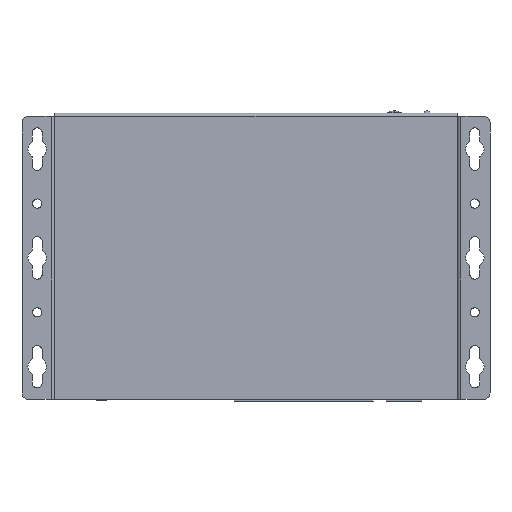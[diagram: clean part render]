
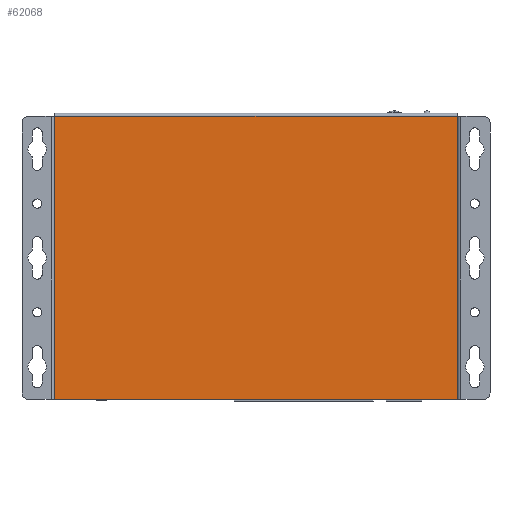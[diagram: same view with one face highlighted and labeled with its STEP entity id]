
A CAD part, front view. The second image highlights one B-rep face of the part: STEP entity #62068.
In plain terms, the highlighted planar face has unit normal (0, -1, 0).
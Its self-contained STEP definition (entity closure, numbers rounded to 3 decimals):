
#5977 = VERTEX_POINT ( 'NONE', #21545 ) ;
#7667 = VECTOR ( 'NONE', #46728, 1000. ) ;
#7840 = VERTEX_POINT ( 'NONE', #49422 ) ;
#8138 = CARTESIAN_POINT ( 'NONE',  ( 92.5, 0., 64.35 ) ) ;
#10630 = FACE_OUTER_BOUND ( 'NONE', #75617, .T. ) ;
#11002 = LINE ( 'NONE', #78434, #91529 ) ;
#11547 = VERTEX_POINT ( 'NONE', #8138 ) ;
#11793 = LINE ( 'NONE', #77289, #90226 ) ;
#12471 = LINE ( 'NONE', #75330, #63806 ) ;
#12542 = DIRECTION ( 'NONE',  ( 0., 1., 0. ) ) ;
#15716 = CARTESIAN_POINT ( 'NONE',  ( -92.5, 0., -65.75 ) ) ;
#17426 = PLANE ( 'NONE',  #34583 ) ;
#18304 = DIRECTION ( 'NONE',  ( 0., 0., -1. ) ) ;
#20302 = CARTESIAN_POINT ( 'NONE',  ( 0., 0., 0. ) ) ;
#21545 = CARTESIAN_POINT ( 'NONE',  ( -92.5, 0., 64.35 ) ) ;
#25630 = VERTEX_POINT ( 'NONE', #15716 ) ;
#29213 = EDGE_CURVE ( 'NONE', #7840, #25630, #11793, .T. ) ;
#29289 = ORIENTED_EDGE ( 'NONE', *, *, #76193, .F. ) ;
#29869 = EDGE_CURVE ( 'NONE', #25630, #5977, #90733, .T. ) ;
#30775 = DIRECTION ( 'NONE',  ( -1., 0., 0. ) ) ;
#32038 = CARTESIAN_POINT ( 'NONE',  ( -92.5, 0., -65.75 ) ) ;
#33735 = DIRECTION ( 'NONE',  ( -1., 0., 0. ) ) ;
#34583 = AXIS2_PLACEMENT_3D ( 'NONE', #20302, #12542, #63872 ) ;
#46728 = DIRECTION ( 'NONE',  ( 0., 0., 1. ) ) ;
#49422 = CARTESIAN_POINT ( 'NONE',  ( 92.5, 0., -65.75 ) ) ;
#62068 = ADVANCED_FACE ( 'NONE', ( #10630 ), #17426, .F. ) ;
#63806 = VECTOR ( 'NONE', #30775, 1000. ) ;
#63872 = DIRECTION ( 'NONE',  ( 0., 0., 1. ) ) ;
#69006 = ORIENTED_EDGE ( 'NONE', *, *, #29213, .F. ) ;
#75330 = CARTESIAN_POINT ( 'NONE',  ( 0., 0., 64.35 ) ) ;
#75617 = EDGE_LOOP ( 'NONE', ( #29289, #94817, #87016, #69006 ) ) ;
#76193 = EDGE_CURVE ( 'NONE', #11547, #7840, #11002, .T. ) ;
#77289 = CARTESIAN_POINT ( 'NONE',  ( -92.5, 0., -65.75 ) ) ;
#78434 = CARTESIAN_POINT ( 'NONE',  ( 92.5, 0., -65.75 ) ) ;
#87016 = ORIENTED_EDGE ( 'NONE', *, *, #29869, .F. ) ;
#90226 = VECTOR ( 'NONE', #33735, 1000. ) ;
#90733 = LINE ( 'NONE', #32038, #7667 ) ;
#91529 = VECTOR ( 'NONE', #18304, 1000. ) ;
#94817 = ORIENTED_EDGE ( 'NONE', *, *, #95741, .T. ) ;
#95741 = EDGE_CURVE ( 'NONE', #11547, #5977, #12471, .T. ) ;
